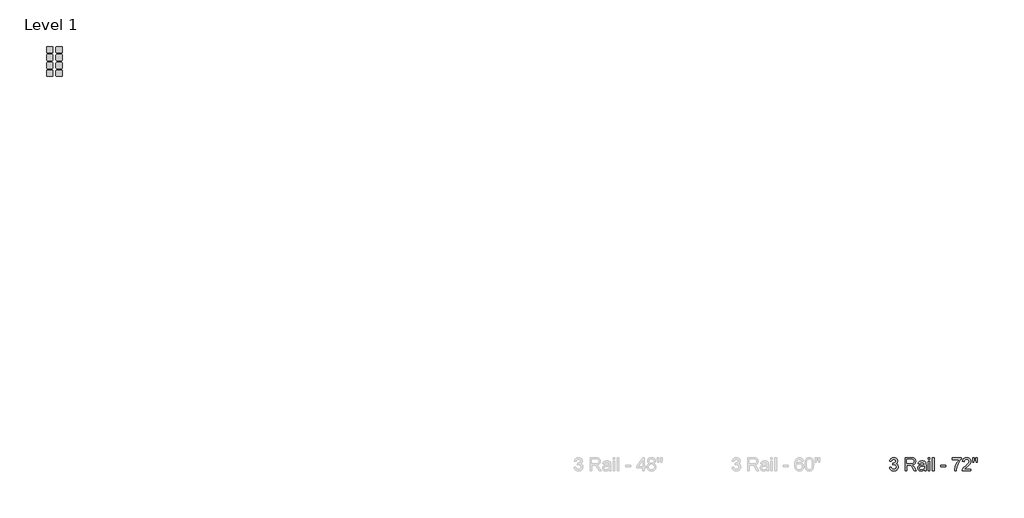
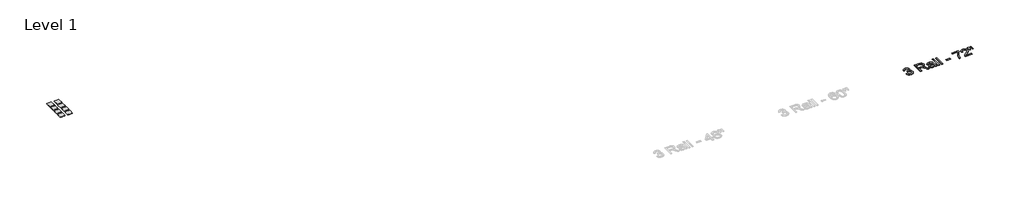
# One storey, part 3 of 3: 9 proxies.
"""IFC4 building model written with IfcOpenShell, lengths in millimetres."""

from ifc_helpers import new_model, si_unit, origin, origin_with_axes, place, context, project, spatial, polyline, outline, extrude, transform, mapped, element, save
from components import materialsample_type_1_9638d12c

model = new_model("IFC4")

# Units and contexts
model_context = context("Model", 3, world=origin())
ifc_project = project(units=[si_unit("LENGTHUNIT", "METRE", prefix="MILLI")], contexts=[model_context])

# Site, building, storey
site = spatial("IfcSite", under=ifc_project)
building = spatial("IfcBuilding", under=site)
storey = spatial("IfcBuildingStorey", under=building, Name="Level 1", Elevation=0.0)

# Proxies
placement = place(None, origin())
element("IfcBuildingElementProxy", 1, Name="50\" Arial", ObjectType="50\" Arial", at=placement, inside=storey, context=model_context, shape_type="SweptSolid", body=[
    extrude(outline(polyline([(82636.6034277, -37631.695131), (82795.2321225, -37611.8665441), (82810.9265264, -37665.7561508), (82830.7454314, -37711.5516663), (82854.6888373, -37749.2530907), (82882.7567441, -37778.860424), (82915.5881592, -37801.2256758), (82953.8220896, -37817.2008556), (82997.4585354, -37826.7859635), (83046.4974965, -37829.9809995), (83103.9694162, -37825.5854046), (83155.2449025, -37812.3986198), (83200.3239555, -37790.4206451), (83239.206575, -37759.6514805), (83270.5179275, -37722.3954247), (83292.8831793, -37680.9567764), (83306.3023303, -37635.3355356), (83310.7753807, -37585.5317022), (83306.341058, -37538.099941), (83293.0380901, -37494.9475916), (83270.8664769, -37456.074654), (83239.8262183, -37421.4811282), (83201.9505192, -37393.0840358), (83159.2725842, -37372.8003983), (83111.7924134, -37360.6302159), (83059.5100066, -37356.5734884), (83009.3963516, -37360.9109918), (82948.2840273, -37373.9235019), (82965.9438624, -37215.294807), (82991.3492393, -37217.1537371), (83040.1267884, -37214.3072505), (83086.3870365, -37205.7677907), (83130.1299835, -37191.5353578), (83171.3556294, -37171.6099516), (83206.3267503, -37145.7785699), (83231.3061224, -37113.8282103), (83246.2937457, -37075.7588726), (83251.2896201, -37031.570557), (83247.6685793, -36995.6990168), (83236.8054571, -36963.0612403), (83218.7002532, -36933.6572275), (83193.3529679, -36907.4869783), (83162.2933455, -36886.0027819), (83127.0511306, -36870.6569273), (83087.6263232, -36861.4494146), (83044.0189232, -36858.3802437), (83000.5277063, -36861.4784604), (82960.8318049, -36870.7731105), (82924.9312189, -36886.264194), (82892.8259484, -36907.9517108), (82865.3099114, -36935.8356611), (82843.1770259, -36969.9160447), (82826.4272918, -37010.1928618), (82815.0607093, -37056.6661122), (82656.4320145, -37036.8375254), (82675.2343171, -36961.105491), (82703.1376312, -36894.3970128), (82740.1419569, -36836.7120907), (82762.056999, -36811.2534632), (82786.2472941, -36788.0507247), (82840.0013537, -36749.4198353), (82899.9518468, -36721.8263428), (82966.0987733, -36705.2702473), (83038.4421331, -36699.7515489), (83089.3206604, -36702.4721704), (83138.165983, -36710.634035), (83184.9781009, -36724.2371427), (83229.7570141, -36743.2814934), (83270.9439323, -36767.0409427), (83306.9800652, -36794.789346), (83337.8654129, -36826.5267033), (83363.5999753, -36862.2530146), (83383.8642489, -36900.5450365), (83398.33873, -36939.9795259), (83407.0234187, -36980.5564827), (83409.9183149, -37022.2759069), (83407.1686476, -37061.5070758), (83398.9196457, -37098.9567701), (83385.1713091, -37134.6249898), (83365.9236379, -37168.5117349), (83341.2928151, -37199.8230874), (83311.395024, -37227.7651292), (83276.2302645, -37252.3378604), (83235.7985366, -37273.5412809), (83288.661859, -37290.0780125), (83335.0963817, -37313.6631871), (83375.1021048, -37344.2968047), (83408.6790283, -37381.9788653), (83435.2462364, -37425.7799038), (83454.2228137, -37474.7704553), (83465.60876, -37528.9505198), (83469.4040755, -37588.3200972), (83467.5064178, -37629.3521046), (83461.8134446, -37668.7962759), (83452.325156, -37706.6526112), (83439.0415519, -37742.9211104), (83421.9626323, -37777.6017735), (83401.0883974, -37810.6946006), (83376.4188469, -37842.1995916), (83347.953981, -37872.1167466), (83316.5893779, -37899.4197812), (83283.2206159, -37923.0824112), (83247.847695, -37943.1046366), (83210.4706151, -37959.4864574), (83171.0893764, -37972.2278736), (83129.7039787, -37981.3288851), (83086.314422, -37986.789492), (83040.9207065, -37988.6096943), (82999.908063, -37987.055745), (82960.676894, -37982.3938971), (82923.2271997, -37974.6241505), (82887.55898, -37963.7465053), (82853.6722349, -37949.7609615), (82821.5669644, -37932.6675191), (82791.2431685, -37912.4661781), (82762.7008472, -37889.1569384), (82736.535439, -37863.3788073), (82713.3423824, -37835.770792), (82693.1216775, -37806.3328924), (82675.8733243, -37775.0651086), (82661.5973227, -37741.9674405), (82650.2936727, -37707.0398882), (82641.9623743, -37670.2824517), (82636.6034277, -37631.695131)])), origin_with_axes(), (0.0, 0.0, 1.0), 25.4),
    extrude(outline(polyline([(84163.4046154, -37968.7811075), (84163.4046154, -36699.7515489), (84710.2398622, -36699.7515489), (84788.7312458, -36701.8912548), (84857.2115167, -36708.3103725), (84915.6806749, -36719.008902), (84964.1387204, -36733.9868433), (85005.403094, -36754.3963458), (85042.2912366, -36781.3895588), (85074.803148, -36814.9664822), (85102.9388284, -36855.1271162), (85125.6429476, -36899.7123908), (85141.8601756, -36946.5632364), (85151.5905124, -36995.6796529), (85154.833958, -37047.0616405), (85149.4604885, -37112.2403742), (85133.3400797, -37172.0746841), (85106.4727318, -37226.5645703), (85068.8584447, -37275.7100326), (85045.9001749, -37297.8864868), (85020.0131221, -37317.942599), (84991.1972864, -37335.878369), (84959.4526677, -37351.6937971), (84887.1770813, -37376.963627), (84803.1863631, -37393.7520887), (84855.4687698, -37427.9099278), (84893.3444689, -37461.6030344), (84958.3295641, -37538.6711747), (85021.9204618, -37624.8790542), (85233.5286621, -37968.7811075), (85049.1847687, -37968.7811075), (84884.0498188, -37705.74251), (84817.9803478, -37605.3602891), (84764.768476, -37531.6227317), (84720.4252496, -37480.8507056), (84680.9617144, -37449.3650784), (84643.5894755, -37430.8919614), (84605.5201379, -37419.1574656), (84568.4189929, -37414.9748731), (84513.503102, -37413.5806756), (84322.0333102, -37413.5806756), (84322.0333102, -37968.7811075), (84163.4046154, -37968.7811075)]), holes=[polyline([(84322.0333102, -37254.9519808), (84677.0889435, -37254.9519808), (84779.0590005, -37249.336463), (84821.4755235, -37242.3170658), (84858.1797094, -37232.4899097), (84889.9945221, -37219.5742189), (84917.7429254, -37203.2892174), (84941.4249193, -37183.6349052), (84961.0405037, -37160.6112824), (84976.425086, -37135.3511344), (84987.4140733, -37108.9872467), (84994.0074657, -37081.5196193), (84996.2052632, -37052.9482522), (84992.0129887, -37012.3809773), (84979.4361653, -36975.5702902), (84958.474793, -36942.5161908), (84929.1288717, -36913.2186792), (84890.7206666, -36889.2268637), (84842.5724428, -36872.0898526), (84784.6842002, -36861.8076459), (84717.0559389, -36858.3802437), (84322.0333102, -36858.3802437), (84322.0333102, -37254.9519808)])]), origin_with_axes(), (0.0, 0.0, 1.0), 25.4),
    extrude(outline(polyline([(86007.4631927, -37849.8095864), (85969.8489057, -37885.1098928), (85931.6730668, -37914.7946816), (85892.9356762, -37938.8639525), (85853.6367338, -37957.3177057), (85813.330871, -37971.0079507), (85771.5727191, -37980.7866972), (85728.3622781, -37986.653945), (85683.699548, -37988.6096943), (85613.0698893, -37983.9042777), (85551.1346011, -37969.7880279), (85497.8936836, -37946.2609449), (85474.5336138, -37930.9683409), (85453.3471367, -37913.3230286), (85418.1726953, -37873.0655754), (85393.0480942, -37827.5798816), (85377.9733336, -37776.865947), (85372.9484134, -37720.9237718), (85374.8460712, -37687.2887568), (85380.5390443, -37655.1641224), (85390.027333, -37624.5498687), (85403.310937, -37595.4459956), (85419.6830759, -37568.4915104), (85438.4369688, -37544.3254201), (85459.5726159, -37522.9477249), (85483.090017, -37504.3584248), (85535.5660623, -37474.150812), (85594.1610855, -37452.3083843), (85651.2457281, -37440.1478838), (85731.4120851, -37428.4521157), (85893.6037292, -37403.3565605), (85956.2264341, -37389.1822191), (86006.5337277, -37373.9235019), (86007.4631927, -37338.6038315), (86004.7328893, -37300.1472168), (85996.5419789, -37267.80958), (85982.8904616, -37241.5909213), (85963.7783373, -37221.4912404), (85930.7436018, -37201.4302873), (85890.5055125, -37187.1010351), (85843.0640693, -37178.5034838), (85788.4192723, -37175.6376333), (85737.6085185, -37177.544973), (85693.9236631, -37183.266992), (85657.3647061, -37192.8036902), (85627.9316475, -37206.1550678), (85603.7461934, -37224.3667728), (85582.93005, -37248.4844534), (85565.4832172, -37278.5081096), (85551.4056951, -37314.4377413), (85392.7770003, -37294.6091545), (85404.8503635, -37248.9104582), (85420.3124012, -37207.859087), (85439.1631134, -37171.4550408), (85461.4025001, -37139.6983197), (85487.9890721, -37111.9499164), (85519.8813402, -37087.5708238), (85557.0793044, -37066.5610418), (85599.5829647, -37048.9205705), (85646.5306296, -37034.9592315), (85697.0606075, -37024.9868465), (85751.1728985, -37019.0034155), (85808.8675025, -37017.0089385), (85865.2647283, -37018.7710493), (85916.1045279, -37024.0573815), (85961.3869013, -37032.8679352), (86001.1118485, -37045.2027104), (86035.608555, -37060.2000156), (86065.2062064, -37076.9981593), (86089.9048026, -37095.5971414), (86109.7043437, -37115.9969619), (86125.756979, -37138.7010812), (86139.2148577, -37164.2129593), (86150.07798, -37192.5325963), (86158.3463458, -37223.6599921), (86164.1555021, -37278.4984276), (86166.0918876, -37362.4601001), (86166.0918876, -37559.8165036), (86168.1057284, -37731.7288025), (86174.147251, -37835.4028787), (86186.0753853, -37903.5249183), (86205.7490613, -37968.7811075), (86047.1203664, -37968.7811075), (86033.0234805, -37942.2913547), (86021.7149895, -37913.6328503), (86013.1948936, -37882.8055942), (86007.4631927, -37849.8095864)]), holes=[polyline([(86007.4631927, -37532.5521967), (85959.5182894, -37546.2811694), (85900.8845384, -37558.964494), (85751.5504937, -37581.1941988), (85669.2541127, -37593.3546994), (85615.0740482, -37606.9093974), (85579.5607393, -37624.4917772), (85553.2646251, -37648.7353228), (85536.9989875, -37677.7811043), (85531.5771083, -37709.7701917), (85534.530096, -37734.4203783), (85543.3890594, -37756.9405409), (85558.1539983, -37777.3306795), (85578.8249129, -37795.5907942), (85605.2081644, -37810.636509), (85637.1101145, -37821.3834482), (85674.530763, -37827.8316117), (85717.47011, -37829.9809995), (85761.3098763, -37827.6089273), (85802.6710691, -37820.4927109), (85841.5536887, -37808.6323501), (85877.9577349, -37792.027845), (85910.7988318, -37772.0540292), (85938.9926038, -37750.0857365), (85962.5390506, -37726.1229667), (85981.4381725, -37700.1657199), (85992.4174779, -37676.9290947), (86000.2598389, -37648.7353228), (86004.9652555, -37615.5844042), (86006.5337277, -37577.4763388), (86007.4631927, -37532.5521967)])]), origin_with_axes(), (0.0, 0.0, 1.0), 25.4),
    extrude(outline(polyline([(86384.206343, -36858.3802437), (86384.206343, -36699.7515489), (86542.8350378, -36699.7515489), (86542.8350378, -36858.3802437), (86384.206343, -36858.3802437)])), origin_with_axes(), (0.0, 0.0, 1.0), 25.4),
    extrude(outline(polyline([(86384.206343, -37968.7811075), (86384.206343, -37036.8375254), (86542.8350378, -37036.8375254), (86542.8350378, -37968.7811075), (86384.206343, -37968.7811075)])), origin_with_axes(), (0.0, 0.0, 1.0), 25.4),
    extrude(outline(polyline([(86780.77808, -37968.7811075), (86780.77808, -36699.7515489), (86939.4067748, -36699.7515489), (86939.4067748, -37968.7811075), (86780.77808, -37968.7811075)])), origin_with_axes(), (0.0, 0.0, 1.0), 25.4),
    extrude(outline(polyline([(87593.750141, -37592.0379573), (87593.750141, -37433.4092624), (88089.4648123, -37433.4092624), (88089.4648123, -37592.0379573), (87593.750141, -37592.0379573)])), origin_with_axes(), (0.0, 0.0, 1.0), 25.4),
    extrude(outline(polyline([(88723.9795917, -36878.2088305), (88723.9795917, -36719.5801357), (89556.7802395, -36719.5801357), (89556.7802395, -36847.8463069), (89497.284797, -36917.8563223), (89438.0798123, -36998.071089), (89379.1652855, -37088.4906068), (89320.5412164, -37189.114876), (89265.3832773, -37295.5870291), (89216.8671403, -37403.550199), (89174.9928052, -37513.0043857), (89139.7602722, -37623.9495892), (89118.7698541, -37704.5225872), (89101.9620285, -37788.8521729), (89089.3367955, -37876.9383463), (89080.894155, -37968.7811075), (88922.2654602, -37968.7811075), (88927.2516527, -37890.8803214), (88939.4218351, -37805.2727214), (88958.7760076, -37711.9583072), (88985.3141699, -37610.9370791), (89018.7265006, -37507.0015909), (89058.7031779, -37404.9443965), (89105.2442019, -37304.7654961), (89158.3495724, -37206.4648895), (89215.6278536, -37112.927791), (89274.6876093, -37027.0394151), (89335.5288397, -36948.7997616), (89398.1515447, -36878.2088305), (88723.9795917, -36878.2088305)])), origin_with_axes(), (0.0, 0.0, 1.0), 25.4),
    extrude(outline(polyline([(90508.5524085, -37810.1524127), (90508.5524085, -37968.7811075), (89675.7517606, -37968.7811075), (89679.2372544, -37912.9357515), (89692.7919524, -37859.4140581), (89710.0838744, -37816.358528), (89731.9069382, -37773.942005), (89758.261144, -37732.1644893), (89789.1464917, -37691.0259807), (89826.4219113, -37648.9192794), (89871.9463329, -37604.2371855), (89925.7197564, -37556.979699), (89987.7421819, -37507.1468198), (90081.8892417, -37426.1478171), (90158.9186543, -37355.1018354), (90218.8304197, -37294.008875), (90261.6245378, -37242.8689356), (90291.5804205, -37197.0153285), (90312.9774795, -37151.7813648), (90325.815715, -37107.1670444), (90330.0951268, -37063.1723673), (90326.0577631, -37021.7821286), (90313.9456723, -36983.7418367), (90293.7588541, -36949.0514917), (90265.4973087, -36917.7110934), (90230.7295082, -36891.7538467), (90191.0239248, -36873.2129561), (90146.3805586, -36862.0884218), (90096.7994096, -36858.3802437), (90044.5654125, -36862.0012845), (89997.8501139, -36872.8644067), (89956.6535137, -36890.9696106), (89920.9756121, -36916.3168959), (89892.1137872, -36948.0542532), (89871.3654173, -36985.3296728), (89858.7305023, -37028.1431548), (89854.2090423, -37076.4946991), (89695.5803475, -37056.6661122), (89701.0046472, -37014.4287049), (89709.2221829, -36974.7763722), (89720.2329545, -36937.709114), (89734.0369622, -36903.2269304), (89750.6342059, -36871.3298213), (89770.0246855, -36842.0177868), (89792.2084012, -36815.2908268), (89817.1853528, -36791.1489414), (89844.6844464, -36769.7276775), (89874.4345882, -36751.1625822), (89906.435778, -36735.4536553), (89940.6880158, -36722.600897), (89977.1913017, -36712.6043072), (90015.9456357, -36705.4638859), (90100.2074479, -36699.7515489), (90143.8850419, -36701.3393849), (90185.2244505, -36706.1028931), (90224.2256736, -36714.0420734), (90260.8887113, -36725.1569258), (90295.2135637, -36739.4474503), (90327.2002306, -36756.9136469), (90356.848712, -36777.5555156), (90384.1590081, -36801.3730565), (90408.6663863, -36827.5433056), (90429.906114, -36855.2432993), (90447.8781913, -36884.4730374), (90462.5826182, -36915.2325201), (90474.0193947, -36947.5217472), (90482.1885208, -36981.3407188), (90487.0899964, -37016.6894349), (90488.7238216, -37053.5678955), (90486.9617109, -37091.666279), (90481.6753786, -37129.4354769), (90472.8648249, -37166.8754892), (90460.5300497, -37203.9863161), (90444.0998193, -37241.4166466), (90423.0028999, -37279.8151697), (90397.2392917, -37319.1818856), (90366.8089946, -37359.5167942), (90328.0328763, -37403.7147918), (90277.2318044, -37454.6707745), (90139.5548, -37576.8566955), (89957.0698366, -37729.4438677), (89917.4901183, -37769.6819571), (89885.5010309, -37810.1524127), (90508.5524085, -37810.1524127)])), origin_with_axes(), (0.0, 0.0, 1.0), 25.4),
    extrude(outline(polyline([(90705.908812, -37155.8090465), (90667.1811033, -36910.7401058), (90667.1811033, -36699.7515489), (90825.8097981, -36699.7515489), (90825.8097981, -36910.7401058), (90791.1097711, -37155.8090465), (90705.908812, -37155.8090465)])), origin_with_axes(), (0.0, 0.0, 1.0), 25.4),
    extrude(outline(polyline([(91022.2367366, -37155.8090465), (90984.4384929, -36910.7401058), (90984.4384929, -36699.7515489), (91143.0671878, -36699.7515489), (91143.0671878, -36910.7401058), (91105.8885874, -37155.8090465), (91022.2367366, -37155.8090465)])), origin_with_axes(), (0.0, 0.0, 1.0), 25.4),
])
materialsample_type_1_shape = materialsample_type_1_9638d12c(model_context)
element("IfcBuildingElementProxy", 2, Name="MaterialSample : Type 1", ObjectType="MaterialSample : Type 1", at=placement, inside=storey, context=model_context, shape_type="MappedRepresentation", body=[
    mapped(materialsample_type_1_shape, transform((1068.2162494, 2472.4897584, 0.0), x_axis=(1.0, 0.0, 0.0), y_axis=(0.0, 1.0, 0.0), z_axis=(0.0, 0.0, 1.0))),
])
element("IfcBuildingElementProxy", 3, Name="MaterialSample : Type 1", ObjectType="MaterialSample : Type 1", at=placement, inside=storey, context=model_context, shape_type="MappedRepresentation", body=[
    mapped(materialsample_type_1_shape, transform((1982.6162494, 2472.4897584, 0.0), x_axis=(1.0, 0.0, 0.0), y_axis=(0.0, 1.0, 0.0), z_axis=(0.0, 0.0, 1.0))),
])
element("IfcBuildingElementProxy", 4, Name="MaterialSample : Type 1", ObjectType="MaterialSample : Type 1", at=placement, inside=storey, context=model_context, shape_type="MappedRepresentation", body=[
    mapped(materialsample_type_1_shape, transform((1068.2162494, 1710.4897584, 0.0), x_axis=(1.0, 0.0, 0.0), y_axis=(0.0, 1.0, 0.0), z_axis=(0.0, 0.0, 1.0))),
])
element("IfcBuildingElementProxy", 5, Name="MaterialSample : Type 1", ObjectType="MaterialSample : Type 1", at=placement, inside=storey, context=model_context, shape_type="MappedRepresentation", body=[
    mapped(materialsample_type_1_shape, transform((1068.2162494, 948.4897584, 0.0), x_axis=(1.0, 0.0, 0.0), y_axis=(0.0, 1.0, 0.0), z_axis=(0.0, 0.0, 1.0))),
])
element("IfcBuildingElementProxy", 6, Name="MaterialSample : Type 1", ObjectType="MaterialSample : Type 1", at=placement, inside=storey, context=model_context, shape_type="MappedRepresentation", body=[
    mapped(materialsample_type_1_shape, transform((1982.6162494, 948.4897584, 0.0), x_axis=(1.0, 0.0, 0.0), y_axis=(0.0, 1.0, 0.0), z_axis=(0.0, 0.0, 1.0))),
])
element("IfcBuildingElementProxy", 7, Name="MaterialSample : Type 1", ObjectType="MaterialSample : Type 1", at=placement, inside=storey, context=model_context, shape_type="MappedRepresentation", body=[
    mapped(materialsample_type_1_shape, transform((1982.6162494, 1710.4897584, 0.0), x_axis=(1.0, 0.0, 0.0), y_axis=(0.0, 1.0, 0.0), z_axis=(0.0, 0.0, 1.0))),
])
element("IfcBuildingElementProxy", 8, Name="MaterialSample : Type 1", ObjectType="MaterialSample : Type 1", at=placement, inside=storey, context=model_context, shape_type="MappedRepresentation", body=[
    mapped(materialsample_type_1_shape, transform((1068.2162494, 186.4897584, 0.0), x_axis=(1.0, 0.0, 0.0), y_axis=(0.0, 1.0, 0.0), z_axis=(0.0, 0.0, 1.0))),
])
element("IfcBuildingElementProxy", 9, Name="MaterialSample : Type 1", ObjectType="MaterialSample : Type 1", at=placement, inside=storey, context=model_context, shape_type="MappedRepresentation", body=[
    mapped(materialsample_type_1_shape, transform((1982.6162494, 186.4897584, 0.0), x_axis=(1.0, 0.0, 0.0), y_axis=(0.0, 1.0, 0.0), z_axis=(0.0, 0.0, 1.0))),
])

save(model, "model.ifc")
